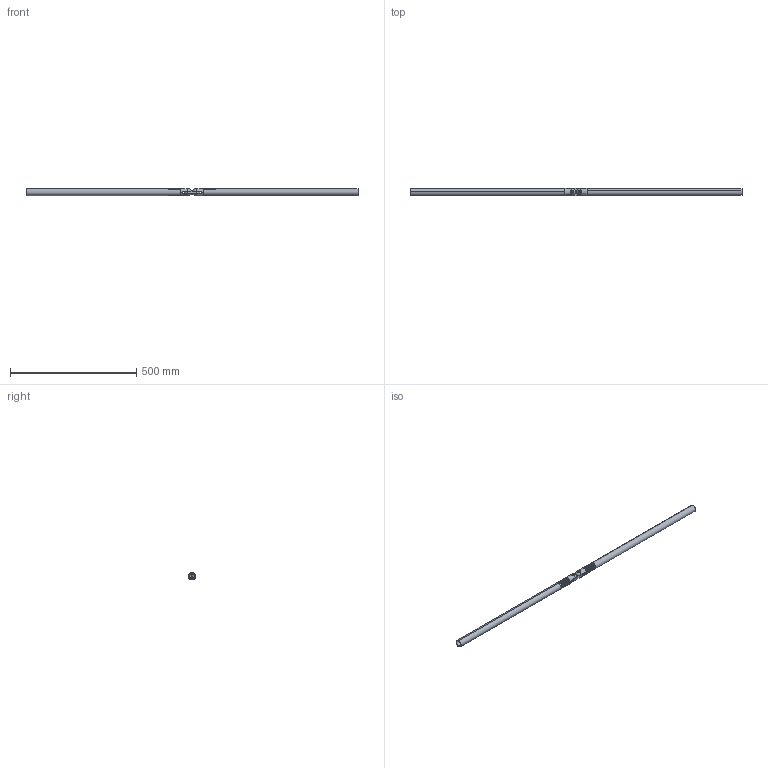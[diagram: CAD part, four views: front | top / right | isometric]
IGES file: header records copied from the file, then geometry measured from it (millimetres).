
Start section: SolidWorks IGES file using analytic representation for surfaces
Global section: file name: \\SERVER3\Design\_NEWDE~1\_DESIG~1\AAI\MODULA~1\SOLIDW~1\DEMONS~1\25DBF2~1.ASS\MODULA~1\34EB7~1.ANG\ANGULA~2\Female to Link to Female.IGS; native system: SolidWorks 2013; preprocessor: SolidWorks 2013; author: tbraun; date: 130819.115904; units: inch
Bounding box: 1312.72 x 28.57 x 30.47 mm (x, y, z)
Surface area: 238469.4 mm2 (no closed solid volume)
Topology: 0 solids, 0 shells, 889 faces, 11650 edges, 11646 vertices
Faces by surface type: revolution 599, bspline 290
